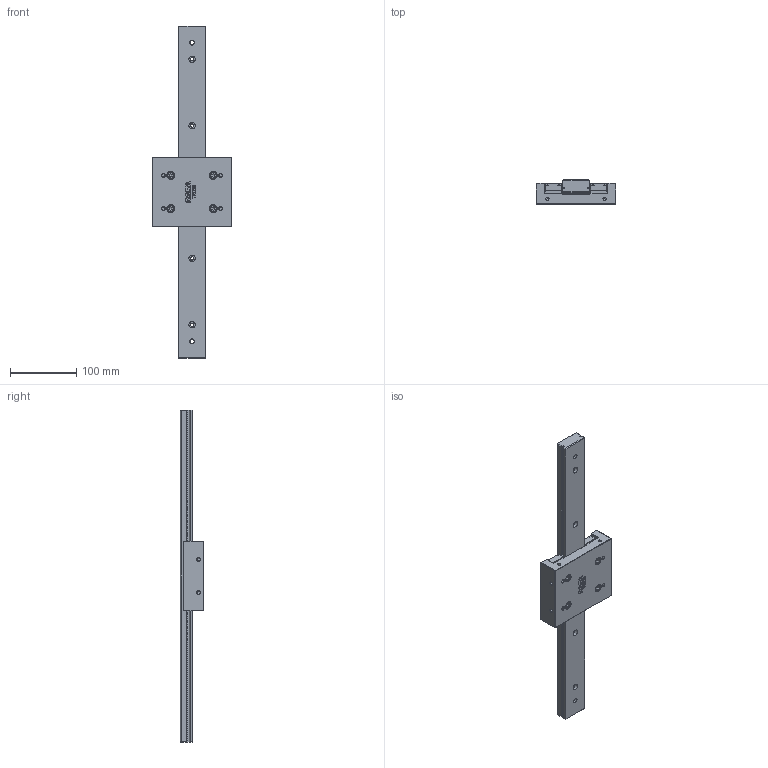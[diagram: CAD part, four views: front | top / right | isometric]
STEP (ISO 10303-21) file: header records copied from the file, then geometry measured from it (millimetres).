
FILE_DESCRIPTION(/* description */ ('TAVOLA TRKD06 L= 500 mm'),/* implementation_level */ '2;1');
FILE_NAME(/* name */ 'TRKD060500-00.stp',/* time_stamp */ '2024-01-25T10:32:24+01:00',/* author */ ('Rosa Sistemi'),/* organization */ (''),/* preprocessor_version */ 'ST-DEVELOPER v20',/* originating_system */ 'Autodesk Inventor 2024',/* authorisation */ '');
FILE_SCHEMA (('AUTOMOTIVE_DESIGN { 1 0 10303 214 3 1 1 }'));
Length unit declared in the file: millimetre
Products named in the file (2): TRKD060500-00; TRKD060500-00_1
Assembly tree (1 placements, depth 2):
  TRKD060500-00
    TRKD060500-00_1
Bounding box: 120 x 36 x 500 mm (x, y, z)
Volume: 676186.1 mm3; surface area: 133247.1 mm2
Topology: 13 solids, 13 shells, 680 faces, 1753 edges, 1127 vertices
Faces by surface type: plane 417, cylinder 89, cone 88, bspline 36, sphere 26, torus 24
Full cylindrical faces by diameter (mm): 2 x2, 2.795 x1, 4.134 x4, 4.917 x17, 6 x15, 7 x3, 7.687 x1, 9.5 x5, 9.9 x4, 10 x4, 11 x4
Entity records: 21634 total; most frequent: CARTESIAN_POINT 4565, ORIENTED_EDGE 3378, DIRECTION 3278, EDGE_CURVE 1689, VERTEX_POINT 1127, AXIS2_PLACEMENT_3D 1124, LINE 1030, VECTOR 1030
